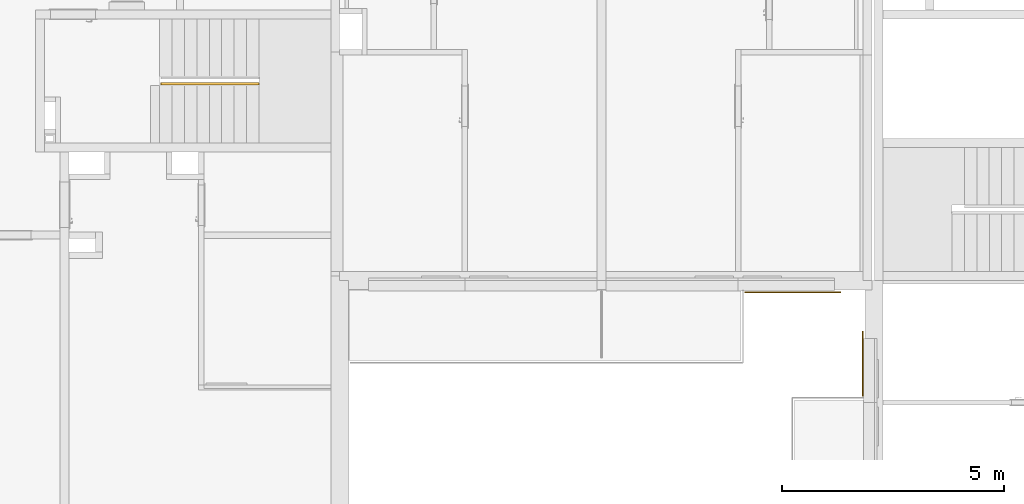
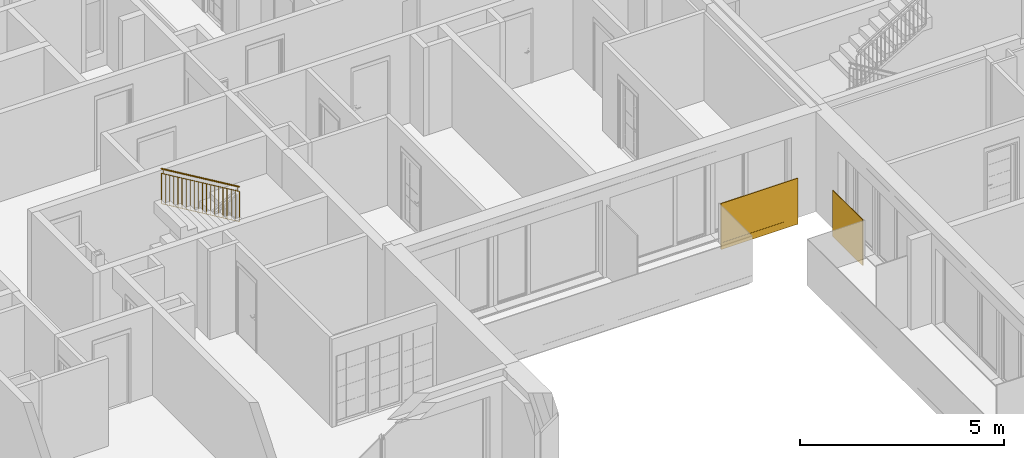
# One storey, part 7 of 66: 3 railings.
"""IFC2X3 building model written with IfcOpenShell, lengths in millimetres."""

from ifc_helpers import new_model, entity, si_unit, converted_unit, derived_unit, money_unit, direction, frame, origin_with_axes, place, context, subcontext, project, spatial, faceted_brep, material, material_list, type_object, element, save


model = new_model("IFC2X3")

# Units and contexts
model_context = context("Model", 3, precision=0.01, world=origin_with_axes(), true_north=direction((0.34421633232, 0.938890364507)))
body_context = subcontext(model_context, "Body", "Model", "MODEL_VIEW")
ifc_project = project(units=[si_unit("LENGTHUNIT", "METRE", prefix="MILLI"), si_unit("AREAUNIT", "SQUARE_METRE"), si_unit("VOLUMEUNIT", "CUBIC_METRE"), converted_unit("PLANEANGLEUNIT", "DEGREE", entity("IfcPlaneAngleMeasure", 0.0174532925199), si_unit("PLANEANGLEUNIT", "RADIAN"), dimensions=[0, 0, 0, 0, 0, 0, 0]), si_unit("SOLIDANGLEUNIT", "STERADIAN"), money_unit("USD"), converted_unit("TIMEUNIT", "Year", entity("IfcTimeMeasure", 31556926.0), si_unit("TIMEUNIT", "SECOND"), dimensions=[0, 0, 1, 0, 0, 0, 0]), si_unit("MASSUNIT", "GRAM", prefix="KILO"), si_unit("THERMODYNAMICTEMPERATUREUNIT", "DEGREE_CELSIUS"), si_unit("LUMINOUSINTENSITYUNIT", "LUMEN"), si_unit("ENERGYUNIT", "JOULE", prefix="MEGA"), derived_unit("THERMALCONDUCTANCEUNIT", [(si_unit("POWERUNIT", "WATT"), 1), (si_unit("LENGTHUNIT", "METRE"), -1), (si_unit("THERMODYNAMICTEMPERATUREUNIT", "KELVIN"), -1)]), derived_unit("SPECIFICHEATCAPACITYUNIT", [(si_unit("ENERGYUNIT", "JOULE"), 1), (si_unit("MASSUNIT", "GRAM", prefix="KILO"), -1), (si_unit("THERMODYNAMICTEMPERATUREUNIT", "KELVIN"), -1)]), derived_unit("MASSDENSITYUNIT", [(si_unit("MASSUNIT", "GRAM", prefix="KILO"), 1), (si_unit("VOLUMEUNIT", "CUBIC_METRE"), -1)])], contexts=[model_context])

# Site, building, storey
site_placement = place(None, origin_with_axes())
site = spatial("IfcSite", under=ifc_project, at=site_placement, Name="USTRONIE MORSKIE", CompositionType="ELEMENT")
building_placement = place(site_placement, origin_with_axes())
building = spatial("IfcBuilding", under=site, at=building_placement, Name="Budynek", CompositionType="ELEMENT")
storey_placement = place(building_placement, frame((0.0, 0.0, 10000.0), z_axis=(0.0, 0.0, 1.0), x_axis=(1.0, 0.0, 0.0)))
storey = spatial("IfcBuildingStorey", under=building, at=storey_placement, Name="PIĘTRO 3", CompositionType="ELEMENT", Elevation=10000.0)

# Railings
ifc_material_1 = material(Name="Szkło struktualne")
ifc_material_2 = material(Name="Profile aluminiowe")
ifc_material_list_1 = material_list([ifc_material_1, ifc_material_2])
railing_type = type_object("IfcRailingType", Name="Typ balustrady", PredefinedType="NOTDEFINED")
railing_1_placement = place(storey_placement, frame((408257.883673, 724111.198359, 0.0), z_axis=(0.0, 0.0, 1.0), x_axis=(1.0, 0.0, 0.0)))
element("IfcRailing", 1, at=railing_1_placement, inside=storey, type_object=railing_type, material=ifc_material_list_1, Name="BL1", PredefinedType="NOTDEFINED", context=body_context, shape_type="Brep", body=[
    faceted_brep([(-60.0, 1550.0, -300.0), (-60.0, 80.0, -300.0), (-60.0, 80.0, 1070.0), (-60.0, 1550.0, 1070.0), (-40.0, 80.0, -300.0), (-40.0, 1550.0, -300.0), (-40.0, 80.0, 1070.0), (-40.0, 1550.0, 1070.0)], [[[0, 1, 2, 3]], [[4, 1, 0, 5]], [[6, 2, 1, 4]], [[3, 2, 6, 7]], [[0, 3, 7, 5]], [[6, 4, 5, 7]]]),
    faceted_brep([(-35.0, 1550.0, -105.0), (-35.0, 80.0, -105.0), (-35.0, 80.0, -305.0), (-35.0, 1550.0, -305.0), (-40.0, 1550.0, -105.0), (-40.0, 80.0, -105.0), (-40.0, 80.0, -300.0), (-60.0, 80.0, -300.0), (-60.0, 80.0, -105.0), (-65.0, 80.0, -105.0), (-65.0, 80.0, -305.0), (-65.0, 1550.0, -305.0), (-65.0, 1550.0, -105.0), (-60.0, 1550.0, -105.0), (-60.0, 1550.0, -300.0), (-40.0, 1550.0, -300.0)], [[[0, 1, 2, 3]], [[1, 0, 4, 5]], [[6, 7, 8, 9, 10, 2, 1, 5]], [[10, 11, 3, 2]], [[11, 12, 13, 14, 15, 4, 0, 3]], [[15, 6, 5, 4]], [[7, 6, 15, 14]], [[8, 7, 14, 13]], [[9, 8, 13, 12]], [[11, 10, 9, 12]]]),
])
railing_2_placement = place(storey_placement, frame((405457.913786, 726591.199036, 0.0), z_axis=(0.0, 0.0, 1.0), x_axis=(1.0, 0.0, 0.0)))
element("IfcRailing", 2, at=railing_2_placement, inside=storey, type_object=railing_type, material=ifc_material_list_1, Name="BL1", PredefinedType="NOTDEFINED", context=body_context, shape_type="Brep", body=[
    faceted_brep([(2259.98778246, -40.0, -300.0), (80.0, -40.0, -300.0), (80.0, -40.0, 1070.0), (2259.98778246, -40.0, 1070.0), (80.0, -59.9999999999, -300.0), (2259.98778246, -59.9999999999, -300.0), (80.0, -59.9999999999, 1070.0), (2259.98778246, -59.9999999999, 1070.0)], [[[0, 1, 2, 3]], [[4, 1, 0, 5]], [[6, 2, 1, 4]], [[3, 2, 6, 7]], [[0, 3, 7, 5]], [[6, 4, 5, 7]]]),
    faceted_brep([(80.0, -64.9999999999, -305.0), (2259.98778246, -64.9999999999, -305.0), (2259.98778246, -64.9999999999, -105.0), (80.0, -64.9999999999, -105.0), (80.0, -35.0, -305.0), (2259.98778246, -35.0, -305.0), (2259.98778246, -35.0, -105.0), (2259.98778246, -40.0, -105.0), (2259.98778246, -40.0, -300.0), (2259.98778246, -59.9999999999, -300.0), (2259.98778246, -59.9999999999, -105.0), (80.0, -59.9999999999, -105.0), (80.0, -40.0, -300.0), (80.0, -40.0, -105.0), (80.0, -35.0, -105.0), (80.0, -59.9999999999, -300.0)], [[[0, 1, 2, 3]], [[4, 5, 1, 0]], [[5, 6, 7, 8, 9, 10, 2, 1]], [[3, 2, 10, 11]], [[12, 13, 14, 4, 0, 3, 11, 15]], [[5, 4, 14, 6]], [[14, 13, 7, 6]], [[13, 12, 8, 7]], [[12, 15, 9, 8]], [[9, 15, 11, 10]]]),
])
ifc_material_3 = material(Name="Stal konstrukcyjna")
ifc_material_4 = material(Name="Stal nierdzewna")
ifc_material_list_2 = material_list([ifc_material_3, ifc_material_3, ifc_material_4, ifc_material_4, ifc_material_4, ifc_material_3, ifc_material_3, ifc_material_3, ifc_material_3, ifc_material_3, ifc_material_3, ifc_material_3, ifc_material_3, ifc_material_3, ifc_material_3, ifc_material_3, ifc_material_3, ifc_material_3, ifc_material_3, ifc_material_3, ifc_material_3, ifc_material_3, ifc_material_3])
railing_3_placement = place(storey_placement, frame((394597.920919, 731201.199036, 1666.66666667), z_axis=(0.0, 0.0, 1.0), x_axis=(1.0, 0.0, 0.0)))
element("IfcRailing", 3, at=railing_3_placement, inside=storey, type_object=railing_type, material=ifc_material_list_2, Name="BL1", PredefinedType="NOTDEFINED", context=body_context, shape_type="Brep", body=[
    faceted_brep([(-9.99999999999, 45.0, -144.047619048), (-9.99999999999, 25.0, -144.047619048), (-9.99999999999, 25.0, 755.952380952), (-9.99999999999, 45.0, 755.952380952), (9.99999999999, 45.0, -155.952380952), (9.99999999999, 25.0, -155.952380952), (-5.0, 40.0, -147.023809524), (-5.0, 30.0, -147.023809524), (5.0, 30.0, -152.976190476), (5.0, 40.0, -152.976190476), (9.99999999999, 25.0, 744.047619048), (9.99999999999, 45.0, 744.047619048), (-5.0, 40.0, 752.976190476), (5.0, 40.0, 747.023809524), (5.0, 30.0, 747.023809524), (-5.0, 30.0, 752.976190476)], [[[0, 1, 2, 3]], [[0, 4, 5, 1], [6, 7, 8, 9]], [[1, 5, 10, 2]], [[3, 2, 10, 11], [12, 13, 14, 15]], [[4, 0, 3, 11]], [[5, 4, 11, 10]], [[7, 6, 12, 15]], [[8, 7, 15, 14]], [[9, 8, 14, 13]], [[6, 9, 13, 12]]]),
    faceted_brep([(-2215.62828462, 45.0, 1168.8263599), (-2215.62828462, 25.0, 1168.8263599), (-2215.62828462, 25.0, 2068.8263599), (-2215.62828462, 45.0, 2068.8263599), (-2195.62828462, 45.0, 1156.92159799), (-2195.62828462, 25.0, 1156.92159799), (-2210.62828462, 40.0, 1165.85016942), (-2210.62828462, 30.0, 1165.85016942), (-2200.62828462, 30.0, 1159.89778847), (-2200.62828462, 40.0, 1159.89778847), (-2195.62828462, 25.0, 2056.92159799), (-2195.62828462, 45.0, 2056.92159799), (-2210.62828462, 40.0, 2065.85016942), (-2200.62828462, 40.0, 2059.89778847), (-2200.62828462, 30.0, 2059.89778847), (-2210.62828462, 30.0, 2065.85016942)], [[[0, 1, 2, 3]], [[0, 4, 5, 1], [6, 7, 8, 9]], [[1, 5, 10, 2]], [[3, 2, 10, 11], [12, 13, 14, 15]], [[4, 0, 3, 11]], [[5, 4, 11, 10]], [[7, 6, 12, 15]], [[8, 7, 15, 14]], [[9, 8, 14, 13]], [[6, 9, 13, 12]]]),
    faceted_brep([(0.0, 59.9999999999, 900.0), (-12.7870964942, 59.9999999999, 878.51767789), (-2218.41538112, 59.9999999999, 2191.39165683), (-2205.62828462, 59.9999999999, 2212.87397894), (0.0, 9.99999999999, 900.0), (-12.7870964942, 9.99999999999, 878.51767789), (-12.7870964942, 25.0, 878.51767789), (-10.2296771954, 25.0, 882.814142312), (-10.2296771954, 45.0, 882.814142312), (-12.7870964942, 45.0, 878.51767789), (-2218.41538112, 45.0, 2191.39165683), (-2215.85796182, 45.0, 2195.68812125), (-2215.85796182, 25.0, 2195.68812125), (-2218.41538112, 25.0, 2191.39165683), (-2218.41538112, 9.99999999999, 2191.39165683), (-2205.62828462, 9.99999999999, 2212.87397894)], [[[0, 1, 2, 3]], [[0, 4, 5, 6, 7, 8, 9, 1]], [[1, 9, 10, 2]], [[3, 2, 10, 11, 12, 13, 14, 15]], [[4, 0, 3, 15]], [[5, 4, 15, 14]], [[6, 5, 14, 13]], [[7, 6, 13, 12]], [[8, 7, 12, 11]], [[9, 8, 11, 10]]]),
    faceted_brep([(-12.7870964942, 45.0, 878.51767789), (-12.7870964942, 25.0, 878.51767789), (-2218.41538112, 25.0, 2191.39165683), (-2218.41538112, 45.0, 2191.39165683), (-10.2296771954, 45.0, 882.814142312), (-10.2296771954, 25.0, 882.814142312), (-2215.85796182, 25.0, 2195.68812125), (-2215.85796182, 45.0, 2195.68812125)], [[[0, 1, 2, 3]], [[0, 4, 5, 1]], [[1, 5, 6, 2]], [[3, 2, 6, 7]], [[4, 0, 3, 7]], [[5, 4, 7, 6]]]),
    faceted_brep([(-45.4646442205, 45.0, 776.480503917), (-45.4646442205, 25.0, 776.480503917), (-45.4646442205, 25.0, 897.968599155), (-45.4646442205, 45.0, 897.968599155), (-40.4646442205, 45.0, 776.480503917), (-40.4646442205, 25.0, 776.480503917), (-40.4646442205, 25.0, 896.480503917), (-42.9646442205, 25.0, 897.968599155), (-42.9646442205, 45.0, 897.968599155), (-40.4646442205, 45.0, 896.480503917)], [[[0, 1, 2, 3]], [[0, 4, 5, 1]], [[1, 5, 6, 7, 2]], [[3, 2, 7, 8]], [[4, 0, 3, 8, 9]], [[5, 4, 9, 6]], [[7, 6, 9, 8]]]),
    faceted_brep([(-2165.1636404, 45.0, 2038.20609688), (-2165.1636404, 25.0, 2038.20609688), (-2165.1636404, 25.0, 2159.69419212), (-2165.1636404, 45.0, 2159.69419212), (-2160.1636404, 45.0, 2038.20609688), (-2160.1636404, 25.0, 2038.20609688), (-2160.1636404, 25.0, 2158.20609688), (-2162.6636404, 25.0, 2159.69419212), (-2162.6636404, 45.0, 2159.69419212), (-2160.1636404, 45.0, 2158.20609688)], [[[0, 1, 2, 3]], [[0, 4, 5, 1]], [[1, 5, 6, 7, 2]], [[3, 2, 7, 8]], [[4, 0, 3, 8, 9]], [[5, 4, 9, 6]], [[7, 6, 9, 8]]]),
    faceted_brep([(0.0, 54.9999999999, 750.0), (-2.55741929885, 54.9999999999, 745.703535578), (-2208.18570392, 54.9999999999, 2058.57751452), (-2205.62828462, 54.9999999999, 2062.87397894), (0.0, 15.0, 750.0), (-2.55741929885, 15.0, 745.703535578), (-2208.18570392, 15.0, 2058.57751452), (-2205.62828462, 15.0, 2062.87397894)], [[[0, 1, 2, 3]], [[0, 4, 5, 1]], [[1, 5, 6, 2]], [[3, 2, 6, 7]], [[4, 0, 3, 7]], [[5, 4, 7, 6]]]),
    faceted_brep([(1.2787096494, 54.9999999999, -157.851767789), (-1.2787096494, 54.9999999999, -162.148232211), (-2206.90699427, 54.9999999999, 1150.72574673), (-2204.34957497, 54.9999999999, 1155.02221115), (1.2787096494, 15.0, -157.851767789), (-1.2787096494, 15.0, -162.148232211), (-2206.90699427, 15.0, 1150.72574673), (-2204.34957497, 15.0, 1155.02221115)], [[[0, 1, 2, 3]], [[0, 4, 5, 1]], [[1, 5, 6, 2]], [[3, 2, 6, 7]], [[4, 0, 3, 7]], [[5, 4, 7, 6]]]),
    faceted_brep([(-118.585699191, 47.5, -84.4132742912), (-118.585699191, 22.4999999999, -84.4132742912), (-118.585699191, 22.4999999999, 815.586725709), (-118.585699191, 47.5, 815.586725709), (-113.585699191, 47.5, -87.3894647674), (-113.585699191, 22.4999999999, -87.3894647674), (-113.585699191, 22.4999999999, 812.610535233), (-113.585699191, 47.5, 812.610535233)], [[[0, 1, 2, 3]], [[0, 4, 5, 1]], [[1, 5, 6, 2]], [[3, 2, 6, 7]], [[4, 0, 3, 7]], [[5, 4, 7, 6]]]),
    faceted_brep([(-234.671398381, 47.5, -15.3146438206), (-234.671398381, 22.4999999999, -15.3146438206), (-234.671398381, 22.4999999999, 884.685356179), (-234.671398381, 47.5, 884.685356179), (-229.671398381, 47.5, -18.2908342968), (-229.671398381, 22.4999999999, -18.2908342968), (-229.671398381, 22.4999999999, 881.709165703), (-229.671398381, 47.5, 881.709165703)], [[[0, 1, 2, 3]], [[0, 4, 5, 1]], [[1, 5, 6, 2]], [[3, 2, 6, 7]], [[4, 0, 3, 7]], [[5, 4, 7, 6]]]),
    faceted_brep([(-350.757097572, 47.5, 53.7839866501), (-350.757097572, 22.4999999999, 53.7839866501), (-350.757097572, 22.4999999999, 953.78398665), (-350.757097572, 47.5, 953.78398665), (-345.757097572, 47.5, 50.8077961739), (-345.757097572, 22.4999999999, 50.8077961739), (-345.757097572, 22.4999999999, 950.807796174), (-345.757097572, 47.5, 950.807796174)], [[[0, 1, 2, 3]], [[0, 4, 5, 1]], [[1, 5, 6, 2]], [[3, 2, 6, 7]], [[4, 0, 3, 7]], [[5, 4, 7, 6]]]),
    faceted_brep([(-466.842796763, 47.5, 122.882617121), (-466.842796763, 22.4999999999, 122.882617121), (-466.842796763, 22.4999999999, 1022.88261712), (-466.842796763, 47.5, 1022.88261712), (-461.842796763, 47.5, 119.906426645), (-461.842796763, 22.4999999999, 119.906426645), (-461.842796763, 22.4999999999, 1019.90642664), (-461.842796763, 47.5, 1019.90642664)], [[[0, 1, 2, 3]], [[0, 4, 5, 1]], [[1, 5, 6, 2]], [[3, 2, 6, 7]], [[4, 0, 3, 7]], [[5, 4, 7, 6]]]),
    faceted_brep([(-582.928495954, 47.5, 191.981247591), (-582.928495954, 22.4999999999, 191.981247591), (-582.928495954, 22.4999999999, 1091.98124759), (-582.928495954, 47.5, 1091.98124759), (-577.928495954, 47.5, 189.005057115), (-577.928495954, 22.4999999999, 189.005057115), (-577.928495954, 22.4999999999, 1089.00505712), (-577.928495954, 47.5, 1089.00505712)], [[[0, 1, 2, 3]], [[0, 4, 5, 1]], [[1, 5, 6, 2]], [[3, 2, 6, 7]], [[4, 0, 3, 7]], [[5, 4, 7, 6]]]),
    faceted_brep([(-699.014195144, 47.5, 261.079878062), (-699.014195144, 22.4999999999, 261.079878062), (-699.014195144, 22.4999999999, 1161.07987806), (-699.014195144, 47.5, 1161.07987806), (-694.014195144, 47.5, 258.103687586), (-694.014195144, 22.4999999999, 258.103687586), (-694.014195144, 22.4999999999, 1158.10368759), (-694.014195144, 47.5, 1158.10368759)], [[[0, 1, 2, 3]], [[0, 4, 5, 1]], [[1, 5, 6, 2]], [[3, 2, 6, 7]], [[4, 0, 3, 7]], [[5, 4, 7, 6]]]),
    faceted_brep([(-815.099894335, 47.5, 330.178508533), (-815.099894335, 22.4999999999, 330.178508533), (-815.099894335, 22.4999999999, 1230.17850853), (-815.099894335, 47.5, 1230.17850853), (-810.099894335, 47.5, 327.202318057), (-810.099894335, 22.4999999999, 327.202318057), (-810.099894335, 22.4999999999, 1227.20231806), (-810.099894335, 47.5, 1227.20231806)], [[[0, 1, 2, 3]], [[0, 4, 5, 1]], [[1, 5, 6, 2]], [[3, 2, 6, 7]], [[4, 0, 3, 7]], [[5, 4, 7, 6]]]),
    faceted_brep([(-931.185593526, 47.5, 399.277139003), (-931.185593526, 22.4999999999, 399.277139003), (-931.185593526, 22.4999999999, 1299.277139), (-931.185593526, 47.5, 1299.277139), (-926.185593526, 47.5, 396.300948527), (-926.185593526, 22.4999999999, 396.300948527), (-926.185593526, 22.4999999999, 1296.30094853), (-926.185593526, 47.5, 1296.30094853)], [[[0, 1, 2, 3]], [[0, 4, 5, 1]], [[1, 5, 6, 2]], [[3, 2, 6, 7]], [[4, 0, 3, 7]], [[5, 4, 7, 6]]]),
    faceted_brep([(-1047.27129272, 47.5, 468.375769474), (-1047.27129272, 22.4999999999, 468.375769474), (-1047.27129272, 22.4999999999, 1368.37576947), (-1047.27129272, 47.5, 1368.37576947), (-1042.27129272, 47.5, 465.399578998), (-1042.27129272, 22.4999999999, 465.399578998), (-1042.27129272, 22.4999999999, 1365.399579), (-1042.27129272, 47.5, 1365.399579)], [[[0, 1, 2, 3]], [[0, 4, 5, 1]], [[1, 5, 6, 2]], [[3, 2, 6, 7]], [[4, 0, 3, 7]], [[5, 4, 7, 6]]]),
    faceted_brep([(-1163.35699191, 47.5, 537.474399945), (-1163.35699191, 22.4999999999, 537.474399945), (-1163.35699191, 22.4999999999, 1437.47439994), (-1163.35699191, 47.5, 1437.47439994), (-1158.35699191, 47.5, 534.498209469), (-1158.35699191, 22.4999999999, 534.498209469), (-1158.35699191, 22.4999999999, 1434.49820947), (-1158.35699191, 47.5, 1434.49820947)], [[[0, 1, 2, 3]], [[0, 4, 5, 1]], [[1, 5, 6, 2]], [[3, 2, 6, 7]], [[4, 0, 3, 7]], [[5, 4, 7, 6]]]),
    faceted_brep([(-1279.4426911, 47.5, 606.573030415), (-1279.4426911, 22.4999999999, 606.573030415), (-1279.4426911, 22.4999999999, 1506.57303042), (-1279.4426911, 47.5, 1506.57303042), (-1274.4426911, 47.5, 603.596839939), (-1274.4426911, 22.4999999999, 603.596839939), (-1274.4426911, 22.4999999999, 1503.59683994), (-1274.4426911, 47.5, 1503.59683994)], [[[0, 1, 2, 3]], [[0, 4, 5, 1]], [[1, 5, 6, 2]], [[3, 2, 6, 7]], [[4, 0, 3, 7]], [[5, 4, 7, 6]]]),
    faceted_brep([(-1395.52839029, 47.5, 675.671660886), (-1395.52839029, 22.4999999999, 675.671660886), (-1395.52839029, 22.4999999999, 1575.67166089), (-1395.52839029, 47.5, 1575.67166089), (-1390.52839029, 47.5, 672.69547041), (-1390.52839029, 22.4999999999, 672.69547041), (-1390.52839029, 22.4999999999, 1572.69547041), (-1390.52839029, 47.5, 1572.69547041)], [[[0, 1, 2, 3]], [[0, 4, 5, 1]], [[1, 5, 6, 2]], [[3, 2, 6, 7]], [[4, 0, 3, 7]], [[5, 4, 7, 6]]]),
    faceted_brep([(-1511.61408948, 47.5, 744.770291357), (-1511.61408948, 22.4999999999, 744.770291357), (-1511.61408948, 22.4999999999, 1644.77029136), (-1511.61408948, 47.5, 1644.77029136), (-1506.61408948, 47.5, 741.794100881), (-1506.61408948, 22.4999999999, 741.794100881), (-1506.61408948, 22.4999999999, 1641.79410088), (-1506.61408948, 47.5, 1641.79410088)], [[[0, 1, 2, 3]], [[0, 4, 5, 1]], [[1, 5, 6, 2]], [[3, 2, 6, 7]], [[4, 0, 3, 7]], [[5, 4, 7, 6]]]),
    faceted_brep([(-1627.69978867, 47.5, 813.868921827), (-1627.69978867, 22.4999999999, 813.868921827), (-1627.69978867, 22.4999999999, 1713.86892183), (-1627.69978867, 47.5, 1713.86892183), (-1622.69978867, 47.5, 810.892731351), (-1622.69978867, 22.4999999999, 810.892731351), (-1622.69978867, 22.4999999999, 1710.89273135), (-1622.69978867, 47.5, 1710.89273135)], [[[0, 1, 2, 3]], [[0, 4, 5, 1]], [[1, 5, 6, 2]], [[3, 2, 6, 7]], [[4, 0, 3, 7]], [[5, 4, 7, 6]]]),
    faceted_brep([(-1743.78548786, 47.5, 882.967552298), (-1743.78548786, 22.4999999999, 882.967552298), (-1743.78548786, 22.4999999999, 1782.9675523), (-1743.78548786, 47.5, 1782.9675523), (-1738.78548786, 47.5, 879.991361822), (-1738.78548786, 22.4999999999, 879.991361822), (-1738.78548786, 22.4999999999, 1779.99136182), (-1738.78548786, 47.5, 1779.99136182)], [[[0, 1, 2, 3]], [[0, 4, 5, 1]], [[1, 5, 6, 2]], [[3, 2, 6, 7]], [[4, 0, 3, 7]], [[5, 4, 7, 6]]]),
    faceted_brep([(-1859.87118705, 47.5, 952.066182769), (-1859.87118705, 22.4999999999, 952.066182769), (-1859.87118705, 22.4999999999, 1852.06618277), (-1859.87118705, 47.5, 1852.06618277), (-1854.87118705, 47.5, 949.089992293), (-1854.87118705, 22.4999999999, 949.089992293), (-1854.87118705, 22.4999999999, 1849.08999229), (-1854.87118705, 47.5, 1849.08999229)], [[[0, 1, 2, 3]], [[0, 4, 5, 1]], [[1, 5, 6, 2]], [[3, 2, 6, 7]], [[4, 0, 3, 7]], [[5, 4, 7, 6]]]),
    faceted_brep([(-1975.95688624, 47.5, 1021.16481324), (-1975.95688624, 22.4999999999, 1021.16481324), (-1975.95688624, 22.4999999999, 1921.16481324), (-1975.95688624, 47.5, 1921.16481324), (-1970.95688624, 47.5, 1018.18862276), (-1970.95688624, 22.4999999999, 1018.18862276), (-1970.95688624, 22.4999999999, 1918.18862276), (-1970.95688624, 47.5, 1918.18862276)], [[[0, 1, 2, 3]], [[0, 4, 5, 1]], [[1, 5, 6, 2]], [[3, 2, 6, 7]], [[4, 0, 3, 7]], [[5, 4, 7, 6]]]),
    faceted_brep([(-2092.04258543, 47.5, 1090.26344371), (-2092.04258543, 22.4999999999, 1090.26344371), (-2092.04258543, 22.4999999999, 1990.26344371), (-2092.04258543, 47.5, 1990.26344371), (-2087.04258543, 47.5, 1087.28725323), (-2087.04258543, 22.4999999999, 1087.28725323), (-2087.04258543, 22.4999999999, 1987.28725323), (-2087.04258543, 47.5, 1987.28725323)], [[[0, 1, 2, 3]], [[0, 4, 5, 1]], [[1, 5, 6, 2]], [[3, 2, 6, 7]], [[4, 0, 3, 7]], [[5, 4, 7, 6]]]),
])

save(model, "model.ifc")
